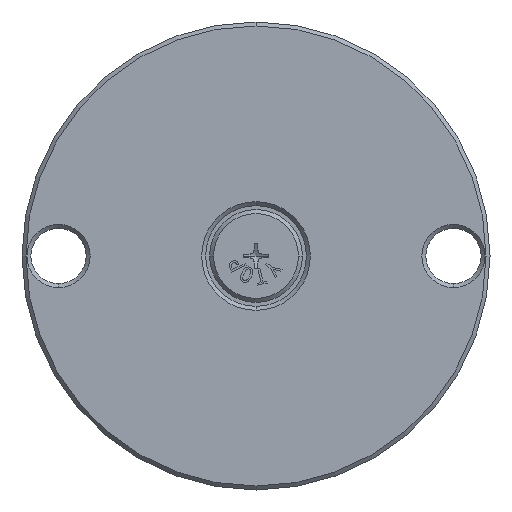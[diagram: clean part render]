
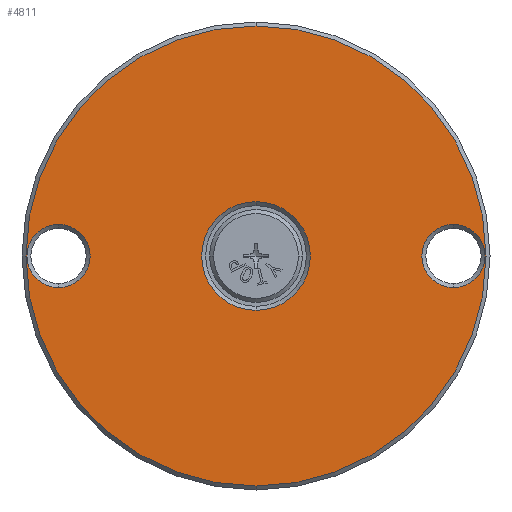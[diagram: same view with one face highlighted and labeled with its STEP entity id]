
A CAD part, front view. The second image highlights one B-rep face of the part: STEP entity #4811.
In plain terms, the highlighted planar face has unit normal (0, -1, 0).
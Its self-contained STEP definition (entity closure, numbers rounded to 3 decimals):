
#35 = ORIENTED_EDGE ( 'NONE', *, *, #2809, .T. ) ;
#168 = CIRCLE ( 'NONE', #6615, 58.25 ) ;
#188 = AXIS2_PLACEMENT_3D ( 'NONE', #3976, #4058, #4033 ) ;
#376 = DIRECTION ( 'NONE',  ( 0., -1., 0. ) ) ;
#599 = EDGE_LOOP ( 'NONE', ( #6347, #7090 ) ) ;
#611 = VERTEX_POINT ( 'NONE', #6528 ) ;
#794 = DIRECTION ( 'NONE',  ( 0., 0., 1. ) ) ;
#1164 = CARTESIAN_POINT ( 'NONE',  ( -50., 0., 0. ) ) ;
#1555 = CIRCLE ( 'NONE', #7655, 13.75 ) ;
#1842 = EDGE_LOOP ( 'NONE', ( #7465, #35 ) ) ;
#1846 = DIRECTION ( 'NONE',  ( 0., 1., 0. ) ) ;
#2104 = AXIS2_PLACEMENT_3D ( 'NONE', #6575, #5842, #3354 ) ;
#2151 = ORIENTED_EDGE ( 'NONE', *, *, #5913, .T. ) ;
#2178 = CARTESIAN_POINT ( 'NONE',  ( 50., 0., -8. ) ) ;
#2281 = VERTEX_POINT ( 'NONE', #4261 ) ;
#2452 = DIRECTION ( 'NONE',  ( 0., 0., 1. ) ) ;
#2542 = CIRCLE ( 'NONE', #7457, 8. ) ;
#2634 = CIRCLE ( 'NONE', #7596, 58.25 ) ;
#2809 = EDGE_CURVE ( 'NONE', #3830, #7518, #2542, .T. ) ;
#2860 = FACE_BOUND ( 'NONE', #7672, .T. ) ;
#2969 = CARTESIAN_POINT ( 'NONE',  ( 0., 0., 13.75 ) ) ;
#3028 = CARTESIAN_POINT ( 'NONE',  ( 0., 0., 58.25 ) ) ;
#3158 = ORIENTED_EDGE ( 'NONE', *, *, #6977, .T. ) ;
#3250 = AXIS2_PLACEMENT_3D ( 'NONE', #1164, #7077, #3746 ) ;
#3282 = DIRECTION ( 'NONE',  ( 0., 0., 1. ) ) ;
#3354 = DIRECTION ( 'NONE',  ( 0., 0., 1. ) ) ;
#3370 = FACE_BOUND ( 'NONE', #599, .T. ) ;
#3547 = VERTEX_POINT ( 'NONE', #3028 ) ;
#3639 = VERTEX_POINT ( 'NONE', #7187 ) ;
#3666 = DIRECTION ( 'NONE',  ( 0., -1., 0. ) ) ;
#3746 = DIRECTION ( 'NONE',  ( 0., 0., 1. ) ) ;
#3830 = VERTEX_POINT ( 'NONE', #4225 ) ;
#3938 = CARTESIAN_POINT ( 'NONE',  ( 50., 0., 0. ) ) ;
#3976 = CARTESIAN_POINT ( 'NONE',  ( 59.25, 0., 0. ) ) ;
#4033 = DIRECTION ( 'NONE',  ( 0., 0., 1. ) ) ;
#4035 = AXIS2_PLACEMENT_3D ( 'NONE', #3938, #7195, #3282 ) ;
#4058 = DIRECTION ( 'NONE',  ( 0., 1., 0. ) ) ;
#4225 = CARTESIAN_POINT ( 'NONE',  ( -50., 0., 8. ) ) ;
#4261 = CARTESIAN_POINT ( 'NONE',  ( 0., 0., -13.75 ) ) ;
#4293 = DIRECTION ( 'NONE',  ( 0., 0., 1. ) ) ;
#4387 = CARTESIAN_POINT ( 'NONE',  ( -50., 0., -8. ) ) ;
#4389 = EDGE_CURVE ( 'NONE', #611, #7716, #6098, .T. ) ;
#4451 = DIRECTION ( 'NONE',  ( 0., 0., 1. ) ) ;
#4811 = ADVANCED_FACE ( 'NONE', ( #3370, #7819, #4882, #2860 ), #7284, .F. ) ;
#4882 = FACE_OUTER_BOUND ( 'NONE', #5553, .T. ) ;
#5360 = CARTESIAN_POINT ( 'NONE',  ( -50., 0., 0. ) ) ;
#5410 = CIRCLE ( 'NONE', #3250, 8. ) ;
#5528 = DIRECTION ( 'NONE',  ( 0., 1., 0. ) ) ;
#5553 = EDGE_LOOP ( 'NONE', ( #3158, #2151 ) ) ;
#5842 = DIRECTION ( 'NONE',  ( 0., 1., 0. ) ) ;
#5913 = EDGE_CURVE ( 'NONE', #3639, #3547, #168, .T. ) ;
#6098 = CIRCLE ( 'NONE', #4035, 8. ) ;
#6261 = CARTESIAN_POINT ( 'NONE',  ( 0., 0., 0. ) ) ;
#6315 = EDGE_CURVE ( 'NONE', #2281, #6612, #6640, .T. ) ;
#6347 = ORIENTED_EDGE ( 'NONE', *, *, #8266, .T. ) ;
#6528 = CARTESIAN_POINT ( 'NONE',  ( 50., 0., 8. ) ) ;
#6559 = CIRCLE ( 'NONE', #2104, 8. ) ;
#6570 = AXIS2_PLACEMENT_3D ( 'NONE', #7477, #5528, #7501 ) ;
#6575 = CARTESIAN_POINT ( 'NONE',  ( 50., 0., 0. ) ) ;
#6612 = VERTEX_POINT ( 'NONE', #2969 ) ;
#6615 = AXIS2_PLACEMENT_3D ( 'NONE', #7576, #3666, #2452 ) ;
#6627 = DIRECTION ( 'NONE',  ( 0., 1., 0. ) ) ;
#6640 = CIRCLE ( 'NONE', #6570, 13.75 ) ;
#6691 = EDGE_CURVE ( 'NONE', #7518, #3830, #5410, .T. ) ;
#6977 = EDGE_CURVE ( 'NONE', #3547, #3639, #2634, .T. ) ;
#7077 = DIRECTION ( 'NONE',  ( 0., 1., 0. ) ) ;
#7090 = ORIENTED_EDGE ( 'NONE', *, *, #4389, .T. ) ;
#7187 = CARTESIAN_POINT ( 'NONE',  ( 0., 0., -58.25 ) ) ;
#7195 = DIRECTION ( 'NONE',  ( 0., 1., 0. ) ) ;
#7284 = PLANE ( 'NONE',  #188 ) ;
#7353 = ORIENTED_EDGE ( 'NONE', *, *, #6315, .T. ) ;
#7457 = AXIS2_PLACEMENT_3D ( 'NONE', #5360, #6627, #794 ) ;
#7465 = ORIENTED_EDGE ( 'NONE', *, *, #6691, .T. ) ;
#7477 = CARTESIAN_POINT ( 'NONE',  ( 0., 0., 0. ) ) ;
#7501 = DIRECTION ( 'NONE',  ( 0., 0., 1. ) ) ;
#7518 = VERTEX_POINT ( 'NONE', #4387 ) ;
#7576 = CARTESIAN_POINT ( 'NONE',  ( 0., 0., 0. ) ) ;
#7596 = AXIS2_PLACEMENT_3D ( 'NONE', #6261, #376, #4293 ) ;
#7655 = AXIS2_PLACEMENT_3D ( 'NONE', #8321, #1846, #4451 ) ;
#7672 = EDGE_LOOP ( 'NONE', ( #7353, #8385 ) ) ;
#7716 = VERTEX_POINT ( 'NONE', #2178 ) ;
#7804 = EDGE_CURVE ( 'NONE', #6612, #2281, #1555, .T. ) ;
#7819 = FACE_BOUND ( 'NONE', #1842, .T. ) ;
#8266 = EDGE_CURVE ( 'NONE', #7716, #611, #6559, .T. ) ;
#8321 = CARTESIAN_POINT ( 'NONE',  ( 0., 0., 0. ) ) ;
#8385 = ORIENTED_EDGE ( 'NONE', *, *, #7804, .T. ) ;
